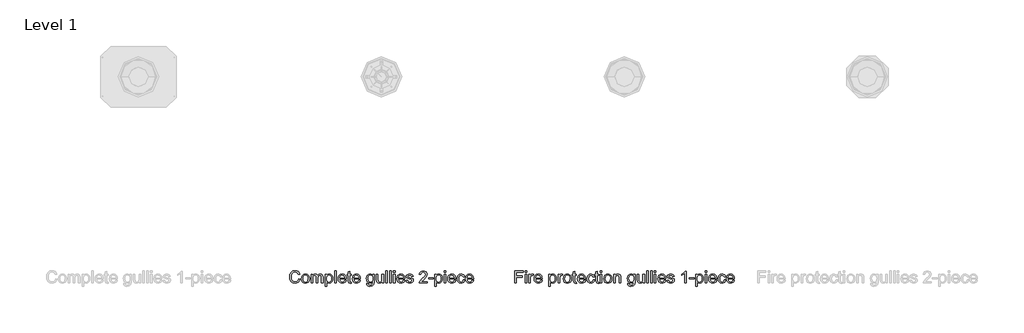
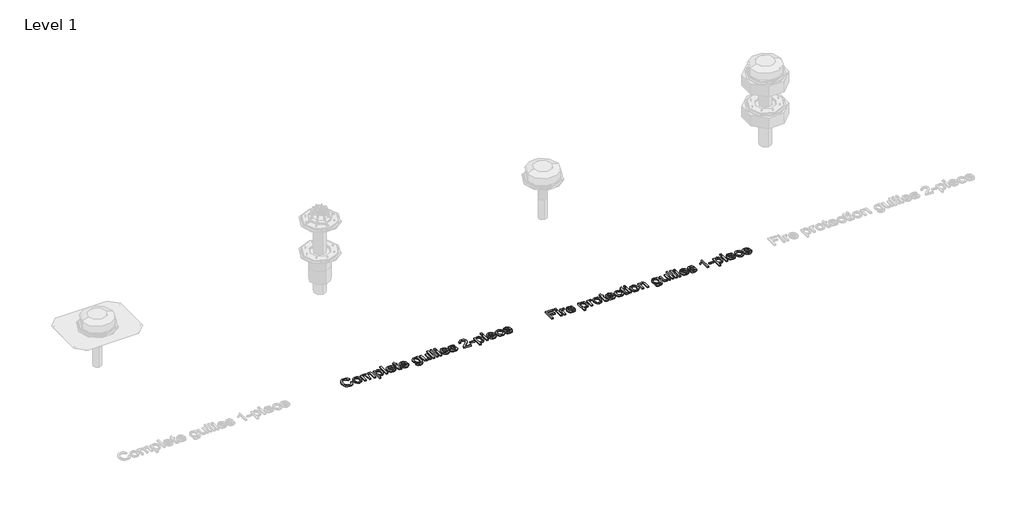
# One storey, part 2 of 4: 2 proxies.
"""IFC4 building model written with IfcOpenShell, lengths in millimetres."""

from ifc_helpers import new_model, si_unit, origin, origin_with_axes, place, context, project, spatial, polyline, outline, extrude, element, save

model = new_model("IFC4")

# Units and contexts
model_context = context("Model", 3, world=origin())
ifc_project = project(units=[si_unit("LENGTHUNIT", "METRE", prefix="MILLI")], contexts=[model_context])

# Site, building, storey
site = spatial("IfcSite", under=ifc_project)
building = spatial("IfcBuilding", under=site)
storey = spatial("IfcBuildingStorey", under=building, Name="Level 1", Elevation=0.0)

# Proxies
placement = place(None, origin())
element("IfcBuildingElementProxy", 1, Name="100mm ACO", ObjectType="100mm ACO", at=placement, inside=storey, context=model_context, shape_type="SweptSolid", body=[
    extrude(outline(polyline([(2830.5555556, -668.1712963), (2824.6419271, -682.9969618), (2815.5237269, -693.5040509), (2803.7362558, -699.7649016), (2789.8148148, -701.8518519), (2768.9091435, -697.9962384), (2754.5717593, -686.4293981), (2746.2818287, -669.4372106), (2743.5185185, -649.3055556), (2746.7628762, -627.9188368), (2756.4959491, -611.7332176), (2771.3288484, -601.5444155), (2789.8726852, -598.1481481), (2803.1864873, -599.9602141), (2814.4241898, -605.396412), (2823.0938947, -614.3265336), (2828.7037037, -626.6203704), (2815.7407407, -629.6296296), (2805.8883102, -614.3663194), (2789.380787, -609.2592593), (2775.1591435, -611.968316), (2764.84375, -620.0954861), (2758.5720486, -632.7799479), (2756.4814815, -649.1608796), (2758.6950231, -667.5238715), (2765.3356481, -680.4832176), (2775.5353009, -688.17636), (2788.4259259, -690.7407407), (2798.9945023, -689.1239873), (2807.3784722, -684.2737269), (2813.5778356, -676.1754919), (2817.5925926, -664.8148148), (2830.5555556, -668.1712963)])), origin_with_axes(), (0.0, 0.0, 1.0), 10.0),
    extrude(outline(polyline([(2874.9710648, -625.9259259), (2888.1474248, -628.3203125), (2898.8570602, -635.5034722), (2905.964265, -647.0992477), (2908.3333333, -662.7314815), (2905.7689525, -681.0040509), (2898.0758102, -692.9976852), (2887.1708623, -699.6383102), (2874.9710648, -701.8518519), (2862.3806424, -699.5768229), (2851.5769676, -692.7517361), (2844.1442419, -680.9859664), (2841.6666667, -663.8888889), (2844.0610532, -647.1715856), (2851.244213, -635.3298611), (2861.9646991, -628.2769097), (2874.9710648, -625.9259259)]), holes=[polyline([(2874.9710648, -692.5925926), (2883.7782118, -690.5852141), (2890.1765046, -684.5630787), (2895.3703704, -663.4259259), (2893.9019097, -651.1429398), (2889.4965278, -642.3032407), (2882.9282407, -636.9646991), (2874.9710648, -635.1851852), (2866.8583623, -636.9900174), (2860.3443287, -642.4045139), (2856.0583044, -651.3925058), (2854.6296296, -663.9178241), (2856.0836227, -676.3997396), (2860.4456019, -685.3732639), (2866.9849537, -690.7877604), (2874.9710648, -692.5925926)])]), origin_with_axes(), (0.0, 0.0, 1.0), 10.0),
    extrude(outline(polyline([(3019.4444444, -700.0), (3006.4814815, -700.0), (3006.4814815, -653.2986111), (3005.8304398, -644.4878472), (3002.4450231, -638.0063657), (2993.9236111, -635.1851852), (2981.9155093, -640.3356481), (2978.1177662, -647.0920139), (2976.8518519, -657.0601852), (2976.8518519, -700.0), (2963.8888889, -700.0), (2963.8888889, -651.9097222), (2960.7060185, -638.744213), (2951.6782407, -635.1851852), (2939.1493056, -640.7552083), (2935.4817708, -648.7521701), (2934.2592593, -661.6030093), (2934.2592593, -700.0), (2921.2962963, -700.0), (2921.2962963, -627.7777778), (2932.4074074, -627.7777778), (2932.4074074, -637.6736111), (2941.7896412, -628.8628472), (2954.3402778, -625.9259259), (2967.5202546, -629.0943287), (2975.0, -638.6284722), (2984.5196759, -629.1015625), (2997.1064815, -625.9259259), (3006.8793403, -627.4450231), (3013.8599537, -632.0023148), (3018.0483218, -639.5978009), (3019.4444444, -650.2314815), (3019.4444444, -700.0)])), origin_with_axes(), (0.0, 0.0, 1.0), 10.0),
    extrude(outline(polyline([(3051.0561343, -636.4872685), (3059.5124421, -628.5662616), (3071.1805556, -625.9259259), (3083.5069444, -628.515625), (3092.9398148, -636.2847222), (3098.9293981, -648.2132523), (3100.9259259, -663.28125), (3098.6689815, -679.1702836), (3091.8981481, -691.4207176), (3081.8431713, -699.2440683), (3069.7337963, -701.8518519), (3059.3605324, -699.7251157), (3051.2731481, -693.3449074), (3050.9259259, -727.7777778), (3037.962963, -727.7777778), (3037.962963, -627.7777778), (3050.9259259, -627.7777778), (3051.0561343, -636.4872685)]), holes=[polyline([(3068.3159722, -692.5925926), (3076.0886863, -690.766059), (3082.3929398, -685.2864583), (3086.5704572, -676.1899595), (3087.962963, -663.5127315), (3086.6210937, -651.4359086), (3082.5954861, -642.5202546), (3076.4793113, -637.0189525), (3068.8657407, -635.1851852), (3060.9845197, -637.2287326), (3054.6440972, -643.359375), (3050.4665799, -652.7452257), (3049.0740741, -664.5543981), (3050.4087095, -676.66739), (3054.4126157, -685.4600694), (3060.5577257, -690.8094618), (3068.3159722, -692.5925926)])]), origin_with_axes(), (0.0, 0.0, 1.0), 10.0),
    extrude(outline(polyline([(3128.7037037, -700.0), (3115.7407407, -700.0), (3115.7407407, -600.0), (3128.7037037, -600.0), (3128.7037037, -700.0)])), origin_with_axes(), (0.0, 0.0, 1.0), 10.0),
    extrude(outline(polyline([(3210.1851852, -666.6666667), (3156.4814815, -666.6666667), (3158.5539641, -677.7922454), (3163.2667824, -685.9375), (3170.0484664, -690.9288194), (3178.3275463, -692.5925926), (3190.0028935, -688.9033565), (3197.2222222, -677.7777778), (3210.1851852, -679.2824074), (3205.8087384, -688.9033565), (3198.8715278, -696.0069444), (3189.6267361, -700.390625), (3178.3275463, -701.8518519), (3163.7405961, -699.3453414), (3152.734375, -691.8258102), (3145.8224826, -679.9660012), (3143.5185185, -664.4386574), (3145.739294, -648.900463), (3152.4016204, -636.6030093), (3163.1004051, -628.5951968), (3177.4305556, -625.9259259), (3192.650463, -629.3836806), (3205.078125, -641.1603009), (3208.9084201, -651.6963252), (3210.1851852, -666.6666667)]), holes=[polyline([(3197.2222222, -657.4074074), (3195.1388889, -647.2511574), (3190.3935185, -640.3935185), (3177.1122685, -635.1851852), (3169.2563657, -636.7332176), (3162.9340278, -641.3773148), (3156.4814815, -657.4074074), (3197.2222222, -657.4074074)])]), origin_with_axes(), (0.0, 0.0, 1.0), 10.0),
    extrude(outline(polyline([(3252.7777778, -701.0127315), (3243.6921296, -701.8518519), (3232.103588, -698.9728009), (3227.662037, -691.6666667), (3226.8518519, -679.3402778), (3226.8518519, -637.037037), (3217.5925926, -637.037037), (3217.5925926, -627.7777778), (3226.8518519, -627.7777778), (3226.8518519, -609.4328704), (3239.8148148, -601.8518519), (3239.8148148, -627.7777778), (3250.9259259, -627.7777778), (3250.9259259, -637.037037), (3239.8148148, -637.037037), (3239.8148148, -681.9444444), (3240.8564815, -690.162037), (3246.1516204, -692.5925926), (3251.1863426, -692.5925926), (3252.7777778, -701.0127315)])), origin_with_axes(), (0.0, 0.0, 1.0), 10.0),
    extrude(outline(polyline([(3326.8518519, -666.6666667), (3273.1481481, -666.6666667), (3275.2206308, -677.7922454), (3279.9334491, -685.9375), (3286.7151331, -690.9288194), (3294.994213, -692.5925926), (3306.6695602, -688.9033565), (3313.8888889, -677.7777778), (3326.8518519, -679.2824074), (3322.4754051, -688.9033565), (3315.5381944, -696.0069444), (3306.2934028, -700.390625), (3294.994213, -701.8518519), (3280.4072627, -699.3453414), (3269.4010417, -691.8258102), (3262.4891493, -679.9660012), (3260.1851852, -664.4386574), (3262.4059606, -648.900463), (3269.068287, -636.6030093), (3279.7670718, -628.5951968), (3294.0972222, -625.9259259), (3309.3171296, -629.3836806), (3321.7447917, -641.1603009), (3325.5750868, -651.6963252), (3326.8518519, -666.6666667)]), holes=[polyline([(3313.8888889, -657.4074074), (3311.8055556, -647.2511574), (3307.0601852, -640.3935185), (3293.7789352, -635.1851852), (3285.9230324, -636.7332176), (3279.6006944, -641.3773148), (3273.1481481, -657.4074074), (3313.8888889, -657.4074074)])]), origin_with_axes(), (0.0, 0.0, 1.0), 10.0),
    extrude(outline(polyline([(3439.8148148, -689.3518519), (3436.7621528, -711.9936343), (3425.8969907, -723.6255787), (3407.2337963, -727.7777778), (3396.0177951, -726.3708044), (3386.8489583, -722.1498843), (3380.7400174, -714.7243924), (3378.7037037, -703.7037037), (3391.6666667, -705.7581019), (3396.2384259, -715.3211806), (3407.4363426, -718.5185185), (3420.7465278, -714.8292824), (3425.9114583, -705.8449074), (3426.8518519, -691.2326389), (3418.0772569, -697.8081597), (3407.2627315, -700.0), (3394.8712384, -697.3885995), (3385.1851852, -689.5543981), (3378.9351852, -677.7416088), (3376.8518519, -663.1944444), (3378.833912, -648.5532407), (3384.7800926, -636.5740741), (3394.2274306, -628.587963), (3406.712963, -625.9259259), (3417.7879051, -628.3058449), (3426.5914352, -635.4456019), (3426.8518519, -627.7777778), (3439.8148148, -627.7777778), (3439.8148148, -689.3518519)]), holes=[polyline([(3409.2013889, -690.7407407), (3416.4134838, -689.134838), (3422.7719907, -684.3171296), (3427.2207755, -675.7233796), (3428.7037037, -662.7893519), (3427.2894965, -651.0018808), (3423.046875, -642.3177083), (3416.7209201, -636.968316), (3409.056713, -635.1851852), (3401.3346354, -637.0117187), (3395.1822917, -642.4913194), (3391.156684, -651.1465567), (3389.8148148, -662.5), (3391.2217882, -675.2170139), (3395.4427083, -683.9699074), (3401.6963252, -689.0480324), (3409.2013889, -690.7407407)])]), origin_with_axes(), (0.0, 0.0, 1.0), 10.0),
    extrude(outline(polyline([(3517.5925926, -700.0), (3506.4814815, -700.0), (3506.4814815, -689.4965278), (3496.2384259, -698.7630208), (3483.275463, -701.8518519), (3469.1550926, -698.3362269), (3460.5034722, -688.6574074), (3458.3333333, -672.65625), (3458.3333333, -627.7777778), (3471.2962963, -627.7777778), (3471.2962963, -668.75), (3472.193287, -682.8414352), (3476.880787, -689.84375), (3485.9085648, -692.5925926), (3498.6545139, -687.6736111), (3503.1358507, -680.1215278), (3504.6296296, -667.3032407), (3504.6296296, -627.7777778), (3517.5925926, -627.7777778), (3517.5925926, -700.0)])), origin_with_axes(), (0.0, 0.0, 1.0), 10.0),
    extrude(outline(polyline([(3549.0740741, -700.0), (3536.1111111, -700.0), (3536.1111111, -600.0), (3549.0740741, -600.0), (3549.0740741, -700.0)])), origin_with_axes(), (0.0, 0.0, 1.0), 10.0),
    extrude(outline(polyline([(3580.5555556, -700.0), (3567.5925926, -700.0), (3567.5925926, -600.0), (3580.5555556, -600.0), (3580.5555556, -700.0)])), origin_with_axes(), (0.0, 0.0, 1.0), 10.0),
    extrude(outline(polyline([(3612.037037, -612.962963), (3599.0740741, -612.962963), (3599.0740741, -600.0), (3612.037037, -600.0), (3612.037037, -612.962963)])), origin_with_axes(), (0.0, 0.0, 1.0), 10.0),
    extrude(outline(polyline([(3612.037037, -700.0), (3599.0740741, -700.0), (3599.0740741, -627.7777778), (3612.037037, -627.7777778), (3612.037037, -700.0)])), origin_with_axes(), (0.0, 0.0, 1.0), 10.0),
    extrude(outline(polyline([(3693.5185185, -666.6666667), (3639.8148148, -666.6666667), (3641.8872975, -677.7922454), (3646.6001157, -685.9375), (3653.3817998, -690.9288194), (3661.6608796, -692.5925926), (3673.3362269, -688.9033565), (3680.5555556, -677.7777778), (3693.5185185, -679.2824074), (3689.1420718, -688.9033565), (3682.2048611, -696.0069444), (3672.9600694, -700.390625), (3661.6608796, -701.8518519), (3647.0739294, -699.3453414), (3636.0677083, -691.8258102), (3629.155816, -679.9660012), (3626.8518519, -664.4386574), (3629.0726273, -648.900463), (3635.7349537, -636.6030093), (3646.4337384, -628.5951968), (3660.7638889, -625.9259259), (3675.9837963, -629.3836806), (3688.4114583, -641.1603009), (3692.2417535, -651.6963252), (3693.5185185, -666.6666667)]), holes=[polyline([(3680.5555556, -657.4074074), (3678.4722222, -647.2511574), (3673.7268519, -640.3935185), (3660.4456019, -635.1851852), (3652.5896991, -636.7332176), (3646.2673611, -641.3773148), (3639.8148148, -657.4074074), (3680.5555556, -657.4074074)])]), origin_with_axes(), (0.0, 0.0, 1.0), 10.0),
    extrude(outline(polyline([(3749.0740741, -648.1481481), (3744.2853009, -638.4259259), (3733.2175926, -635.1851852), (3721.9039352, -637.962963), (3717.5925926, -646.0358796), (3720.4427083, -653.1828704), (3733.8831019, -657.0601852), (3751.6059028, -661.2268519), (3760.6481481, -667.5491898), (3763.8888889, -678.8773148), (3761.8778935, -687.8074363), (3755.8449074, -695.2112269), (3746.448206, -700.1916956), (3734.3460648, -701.8518519), (3721.8713831, -700.4557292), (3712.4565972, -696.2673611), (3706.0944734, -689.2939815), (3702.7777778, -679.5428241), (3715.7407407, -677.7777778), (3721.3396991, -688.9033565), (3734.3460648, -692.5925926), (3746.6435185, -688.7586806), (3750.9259259, -679.4270833), (3749.0017361, -673.4519676), (3744.1984954, -670.0810185), (3730.6134259, -667.1875), (3709.6788194, -659.375), (3704.6296296, -646.7881944), (3706.499566, -638.5018808), (3712.109375, -631.8142361), (3720.880353, -627.3980035), (3732.2337963, -625.9259259), (3744.1659433, -627.2135417), (3753.1105324, -631.0763889), (3759.0675637, -637.5072338), (3762.037037, -646.4988426), (3749.0740741, -648.1481481)])), origin_with_axes(), (0.0, 0.0, 1.0), 10.0),
    extrude(outline(polyline([(3876.8518519, -700.0), (3810.1851852, -700.0), (3816.1458333, -684.4039352), (3838.1655093, -662.7893519), (3855.931713, -645.4571759), (3861.8995949, -636.4293981), (3863.8888889, -627.34375), (3858.4635417, -614.380787), (3844.7627315, -609.2592593), (3830.7291667, -614.3663194), (3826.4612269, -620.7356771), (3825.0, -629.6296296), (3812.037037, -628.2407407), (3815.1765046, -616.1385995), (3822.2222222, -607.2627315), (3832.4363426, -601.8156829), (3845.0810185, -600.0), (3858.4382234, -602.0869502), (3868.4751157, -608.3478009), (3874.7576678, -617.5600405), (3876.8518519, -628.5011574), (3875.1012731, -638.4042245), (3869.849537, -648.4375), (3842.4189815, -675.9548611), (3826.8518519, -690.7407407), (3876.8518519, -690.7407407), (3876.8518519, -700.0)])), origin_with_axes(), (0.0, 0.0, 1.0), 10.0),
    extrude(outline(polyline([(3926.8518519, -666.6666667), (3887.962963, -666.6666667), (3887.962963, -657.4074074), (3926.8518519, -657.4074074), (3926.8518519, -666.6666667)])), origin_with_axes(), (0.0, 0.0, 1.0), 10.0),
    extrude(outline(polyline([(3952.9079861, -636.4872685), (3961.364294, -628.5662616), (3973.0324074, -625.9259259), (3985.3587963, -628.515625), (3994.7916667, -636.2847222), (4000.78125, -648.2132523), (4002.7777778, -663.28125), (4000.5208333, -679.1702836), (3993.75, -691.4207176), (3983.6950231, -699.2440683), (3971.5856481, -701.8518519), (3961.2123843, -699.7251157), (3953.125, -693.3449074), (3952.7777778, -727.7777778), (3939.8148148, -727.7777778), (3939.8148148, -627.7777778), (3952.7777778, -627.7777778), (3952.9079861, -636.4872685)]), holes=[polyline([(3970.1678241, -692.5925926), (3977.9405382, -690.766059), (3984.2447917, -685.2864583), (3988.422309, -676.1899595), (3989.8148148, -663.5127315), (3988.4729456, -651.4359086), (3984.447338, -642.5202546), (3978.3311632, -637.0189525), (3970.7175926, -635.1851852), (3962.8363715, -637.2287326), (3956.4959491, -643.359375), (3952.3184317, -652.7452257), (3950.9259259, -664.5543981), (3952.2605613, -676.66739), (3956.2644676, -685.4600694), (3962.4095775, -690.8094618), (3970.1678241, -692.5925926)])]), origin_with_axes(), (0.0, 0.0, 1.0), 10.0),
    extrude(outline(polyline([(4030.5555556, -612.962963), (4017.5925926, -612.962963), (4017.5925926, -600.0), (4030.5555556, -600.0), (4030.5555556, -612.962963)])), origin_with_axes(), (0.0, 0.0, 1.0), 10.0),
    extrude(outline(polyline([(4030.5555556, -700.0), (4017.5925926, -700.0), (4017.5925926, -627.7777778), (4030.5555556, -627.7777778), (4030.5555556, -700.0)])), origin_with_axes(), (0.0, 0.0, 1.0), 10.0),
    extrude(outline(polyline([(4112.037037, -666.6666667), (4058.3333333, -666.6666667), (4060.405816, -677.7922454), (4065.1186343, -685.9375), (4071.9003183, -690.9288194), (4080.1793981, -692.5925926), (4091.8547454, -688.9033565), (4099.0740741, -677.7777778), (4112.037037, -679.2824074), (4107.6605903, -688.9033565), (4100.7233796, -696.0069444), (4091.478588, -700.390625), (4080.1793981, -701.8518519), (4065.5924479, -699.3453414), (4054.5862269, -691.8258102), (4047.6743345, -679.9660012), (4045.3703704, -664.4386574), (4047.5911458, -648.900463), (4054.2534722, -636.6030093), (4064.9522569, -628.5951968), (4079.2824074, -625.9259259), (4094.5023148, -629.3836806), (4106.9299769, -641.1603009), (4110.760272, -651.6963252), (4112.037037, -666.6666667)]), holes=[polyline([(4099.0740741, -657.4074074), (4096.9907407, -647.2511574), (4092.2453704, -640.3935185), (4078.9641204, -635.1851852), (4071.1082176, -636.7332176), (4064.7858796, -641.3773148), (4058.3333333, -657.4074074), (4099.0740741, -657.4074074)])]), origin_with_axes(), (0.0, 0.0, 1.0), 10.0),
    extrude(outline(polyline([(4187.962963, -675.5497685), (4183.9337384, -687.3553241), (4176.7650463, -695.5150463), (4167.4406829, -700.2676505), (4156.9444444, -701.8518519), (4142.6287616, -699.2621528), (4131.9733796, -691.4930556), (4125.354456, -679.4487847), (4123.1481481, -664.0335648), (4128.1828704, -641.3483796), (4140.7841435, -629.3836806), (4156.6840278, -625.9259259), (4176.1429398, -631.5827546), (4182.6786748, -638.566985), (4186.1111111, -648.2060185), (4173.1481481, -650.0), (4167.2453704, -638.9033565), (4156.8287037, -635.1851852), (4147.8732639, -637.0695891), (4141.3773148, -642.7228009), (4137.427662, -651.7541956), (4136.1111111, -663.7731481), (4137.4312789, -676.0018808), (4141.3917824, -685.083912), (4147.8407118, -690.7154225), (4156.6261574, -692.5925926), (4169.2274306, -687.962963), (4175.0, -674.0740741), (4187.962963, -675.5497685)])), origin_with_axes(), (0.0, 0.0, 1.0), 10.0),
    extrude(outline(polyline([(4258.3333333, -666.6666667), (4204.6296296, -666.6666667), (4206.7021123, -677.7922454), (4211.4149306, -685.9375), (4218.1966146, -690.9288194), (4226.4756944, -692.5925926), (4238.1510417, -688.9033565), (4245.3703704, -677.7777778), (4258.3333333, -679.2824074), (4253.9568866, -688.9033565), (4247.0196759, -696.0069444), (4237.7748843, -700.390625), (4226.4756944, -701.8518519), (4211.8887442, -699.3453414), (4200.8825231, -691.8258102), (4193.9706308, -679.9660012), (4191.6666667, -664.4386574), (4193.8874421, -648.900463), (4200.5497685, -636.6030093), (4211.2485532, -628.5951968), (4225.5787037, -625.9259259), (4240.7986111, -629.3836806), (4253.2262731, -641.1603009), (4257.0565683, -651.6963252), (4258.3333333, -666.6666667)]), holes=[polyline([(4245.3703704, -657.4074074), (4243.287037, -647.2511574), (4238.5416667, -640.3935185), (4225.2604167, -635.1851852), (4217.4045139, -636.7332176), (4211.0821759, -641.3773148), (4204.6296296, -657.4074074), (4245.3703704, -657.4074074)])]), origin_with_axes(), (0.0, 0.0, 1.0), 10.0),
])
element("IfcBuildingElementProxy", 2, Name="100mm ACO", ObjectType="100mm ACO", at=placement, inside=storey, context=model_context, shape_type="SweptSolid", body=[
    extrude(outline(polyline([(4665.7407407, -611.1111111), (4612.037037, -611.1111111), (4612.037037, -642.5925926), (4658.3333333, -642.5925926), (4658.3333333, -653.7037037), (4612.037037, -653.7037037), (4612.037037, -700.0), (4599.0740741, -700.0), (4599.0740741, -600.0), (4665.7407407, -600.0), (4665.7407407, -611.1111111)])), origin_with_axes(), (0.0, 0.0, 1.0), 10.0),
    extrude(outline(polyline([(4695.3703704, -700.0), (4682.4074074, -700.0), (4682.4074074, -627.7777778), (4695.3703704, -627.7777778), (4695.3703704, -700.0)])), origin_with_axes(), (0.0, 0.0, 1.0), 10.0),
    extrude(outline(polyline([(4695.3703704, -612.962963), (4682.4074074, -612.962963), (4682.4074074, -600.0), (4695.3703704, -600.0), (4695.3703704, -612.962963)])), origin_with_axes(), (0.0, 0.0, 1.0), 10.0),
    extrude(outline(polyline([(4752.7777778, -628.7615741), (4748.7268519, -637.037037), (4740.2199074, -635.1851852), (4734.4256366, -636.8127894), (4730.2372685, -641.6956019), (4726.8518519, -659.9247685), (4726.8518519, -700.0), (4713.8888889, -700.0), (4713.8888889, -627.7777778), (4725.0, -627.7777778), (4725.0, -638.4837963), (4731.9299769, -629.0653935), (4740.3645833, -625.9259259), (4752.7777778, -628.7615741)])), origin_with_axes(), (0.0, 0.0, 1.0), 10.0),
    extrude(outline(polyline([(4823.1481481, -666.6666667), (4769.4444444, -666.6666667), (4771.5169271, -677.7922454), (4776.2297454, -685.9375), (4783.0114294, -690.9288194), (4791.2905093, -692.5925926), (4802.9658565, -688.9033565), (4810.1851852, -677.7777778), (4823.1481481, -679.2824074), (4818.7717014, -688.9033565), (4811.8344907, -696.0069444), (4802.5896991, -700.390625), (4791.2905093, -701.8518519), (4776.703559, -699.3453414), (4765.697338, -691.8258102), (4758.7854456, -679.9660012), (4756.4814815, -664.4386574), (4758.7022569, -648.900463), (4765.3645833, -636.6030093), (4776.0633681, -628.5951968), (4790.3935185, -625.9259259), (4805.6134259, -629.3836806), (4818.041088, -641.1603009), (4821.8713831, -651.6963252), (4823.1481481, -666.6666667)]), holes=[polyline([(4810.1851852, -657.4074074), (4808.1018519, -647.2511574), (4803.3564815, -640.3935185), (4790.0752315, -635.1851852), (4782.2193287, -636.7332176), (4775.8969907, -641.3773148), (4769.4444444, -657.4074074), (4810.1851852, -657.4074074)])]), origin_with_axes(), (0.0, 0.0, 1.0), 10.0),
    extrude(outline(polyline([(4889.9450231, -636.4872685), (4898.401331, -628.5662616), (4910.0694444, -625.9259259), (4922.3958333, -628.515625), (4931.8287037, -636.2847222), (4937.818287, -648.2132523), (4939.8148148, -663.28125), (4937.5578704, -679.1702836), (4930.787037, -691.4207176), (4920.7320602, -699.2440683), (4908.6226852, -701.8518519), (4898.2494213, -699.7251157), (4890.162037, -693.3449074), (4889.8148148, -727.7777778), (4876.8518519, -727.7777778), (4876.8518519, -627.7777778), (4889.8148148, -627.7777778), (4889.9450231, -636.4872685)]), holes=[polyline([(4907.2048611, -692.5925926), (4914.9775752, -690.766059), (4921.2818287, -685.2864583), (4925.4593461, -676.1899595), (4926.8518519, -663.5127315), (4925.5099826, -651.4359086), (4921.484375, -642.5202546), (4915.3682002, -637.0189525), (4907.7546296, -635.1851852), (4899.8734086, -637.2287326), (4893.5329861, -643.359375), (4889.3554687, -652.7452257), (4887.962963, -664.5543981), (4889.2975984, -676.66739), (4893.3015046, -685.4600694), (4899.4466146, -690.8094618), (4907.2048611, -692.5925926)])]), origin_with_axes(), (0.0, 0.0, 1.0), 10.0),
    extrude(outline(polyline([(4993.5185185, -628.7615741), (4989.4675926, -637.037037), (4980.9606481, -635.1851852), (4975.1663773, -636.8127894), (4970.9780093, -641.6956019), (4967.5925926, -659.9247685), (4967.5925926, -700.0), (4954.6296296, -700.0), (4954.6296296, -627.7777778), (4965.7407407, -627.7777778), (4965.7407407, -638.4837963), (4972.6707176, -629.0653935), (4981.1053241, -625.9259259), (4993.5185185, -628.7615741)])), origin_with_axes(), (0.0, 0.0, 1.0), 10.0),
    extrude(outline(polyline([(5030.5266204, -625.9259259), (5043.7029803, -628.3203125), (5054.4126157, -635.5034722), (5061.5198206, -647.0992477), (5063.8888889, -662.7314815), (5061.3245081, -681.0040509), (5053.6313657, -692.9976852), (5042.7264178, -699.6383102), (5030.5266204, -701.8518519), (5017.9361979, -699.5768229), (5007.1325231, -692.7517361), (4999.6997975, -680.9859664), (4997.2222222, -663.8888889), (4999.6166088, -647.1715856), (5006.7997685, -635.3298611), (5017.5202546, -628.2769097), (5030.5266204, -625.9259259)]), holes=[polyline([(5030.5266204, -692.5925926), (5039.3337674, -690.5852141), (5045.7320602, -684.5630787), (5050.9259259, -663.4259259), (5049.4574653, -651.1429398), (5045.0520833, -642.3032407), (5038.4837963, -636.9646991), (5030.5266204, -635.1851852), (5022.4139178, -636.9900174), (5015.8998843, -642.4045139), (5011.61386, -651.3925058), (5010.1851852, -663.9178241), (5011.6391782, -676.3997396), (5016.0011574, -685.3732639), (5022.5405093, -690.7877604), (5030.5266204, -692.5925926)])]), origin_with_axes(), (0.0, 0.0, 1.0), 10.0),
    extrude(outline(polyline([(5106.4814815, -701.0127315), (5097.3958333, -701.8518519), (5085.8072917, -698.9728009), (5081.3657407, -691.6666667), (5080.5555556, -679.3402778), (5080.5555556, -637.037037), (5071.2962963, -637.037037), (5071.2962963, -627.7777778), (5080.5555556, -627.7777778), (5080.5555556, -609.4328704), (5093.5185185, -601.8518519), (5093.5185185, -627.7777778), (5104.6296296, -627.7777778), (5104.6296296, -637.037037), (5093.5185185, -637.037037), (5093.5185185, -681.9444444), (5094.5601852, -690.162037), (5099.8553241, -692.5925926), (5104.8900463, -692.5925926), (5106.4814815, -701.0127315)])), origin_with_axes(), (0.0, 0.0, 1.0), 10.0),
    extrude(outline(polyline([(5180.5555556, -666.6666667), (5126.8518519, -666.6666667), (5128.9243345, -677.7922454), (5133.6371528, -685.9375), (5140.4188368, -690.9288194), (5148.6979167, -692.5925926), (5160.3732639, -688.9033565), (5167.5925926, -677.7777778), (5180.5555556, -679.2824074), (5176.1791088, -688.9033565), (5169.2418981, -696.0069444), (5159.9971065, -700.390625), (5148.6979167, -701.8518519), (5134.1109664, -699.3453414), (5123.1047454, -691.8258102), (5116.192853, -679.9660012), (5113.8888889, -664.4386574), (5116.1096644, -648.900463), (5122.7719907, -636.6030093), (5133.4707755, -628.5951968), (5147.8009259, -625.9259259), (5163.0208333, -629.3836806), (5175.4484954, -641.1603009), (5179.2787905, -651.6963252), (5180.5555556, -666.6666667)]), holes=[polyline([(5167.5925926, -657.4074074), (5165.5092593, -647.2511574), (5160.7638889, -640.3935185), (5147.4826389, -635.1851852), (5139.6267361, -636.7332176), (5133.3043981, -641.3773148), (5126.8518519, -657.4074074), (5167.5925926, -657.4074074)])]), origin_with_axes(), (0.0, 0.0, 1.0), 10.0),
    extrude(outline(polyline([(5256.4814815, -675.5497685), (5252.4522569, -687.3553241), (5245.2835648, -695.5150463), (5235.9592014, -700.2676505), (5225.462963, -701.8518519), (5211.1472801, -699.2621528), (5200.4918981, -691.4930556), (5193.8729745, -679.4487847), (5191.6666667, -664.0335648), (5196.7013889, -641.3483796), (5209.302662, -629.3836806), (5225.2025463, -625.9259259), (5244.6614583, -631.5827546), (5251.1971933, -638.566985), (5254.6296296, -648.2060185), (5241.6666667, -650.0), (5235.7638889, -638.9033565), (5225.3472222, -635.1851852), (5216.3917824, -637.0695891), (5209.8958333, -642.7228009), (5205.9461806, -651.7541956), (5204.6296296, -663.7731481), (5205.9497975, -676.0018808), (5209.9103009, -685.083912), (5216.3592303, -690.7154225), (5225.1446759, -692.5925926), (5237.7459491, -687.962963), (5243.5185185, -674.0740741), (5256.4814815, -675.5497685)])), origin_with_axes(), (0.0, 0.0, 1.0), 10.0),
    extrude(outline(polyline([(5291.6666667, -701.0127315), (5282.5810185, -701.8518519), (5270.9924769, -698.9728009), (5266.5509259, -691.6666667), (5265.7407407, -679.3402778), (5265.7407407, -637.037037), (5256.4814815, -637.037037), (5256.4814815, -627.7777778), (5265.7407407, -627.7777778), (5265.7407407, -609.4328704), (5278.7037037, -601.8518519), (5278.7037037, -627.7777778), (5289.8148148, -627.7777778), (5289.8148148, -637.037037), (5278.7037037, -637.037037), (5278.7037037, -681.9444444), (5279.7453704, -690.162037), (5285.0405093, -692.5925926), (5290.0752315, -692.5925926), (5291.6666667, -701.0127315)])), origin_with_axes(), (0.0, 0.0, 1.0), 10.0),
    extrude(outline(polyline([(5315.7407407, -612.962963), (5302.7777778, -612.962963), (5302.7777778, -600.0), (5315.7407407, -600.0), (5315.7407407, -612.962963)])), origin_with_axes(), (0.0, 0.0, 1.0), 10.0),
    extrude(outline(polyline([(5315.7407407, -700.0), (5302.7777778, -700.0), (5302.7777778, -627.7777778), (5315.7407407, -627.7777778), (5315.7407407, -700.0)])), origin_with_axes(), (0.0, 0.0, 1.0), 10.0),
    extrude(outline(polyline([(5363.8599537, -625.9259259), (5377.0363137, -628.3203125), (5387.7459491, -635.5034722), (5394.8531539, -647.0992477), (5397.2222222, -662.7314815), (5394.6578414, -681.0040509), (5386.9646991, -692.9976852), (5376.0597512, -699.6383102), (5363.8599537, -701.8518519), (5351.2695312, -699.5768229), (5340.4658565, -692.7517361), (5333.0331308, -680.9859664), (5330.5555556, -663.8888889), (5332.9499421, -647.1715856), (5340.1331019, -635.3298611), (5350.853588, -628.2769097), (5363.8599537, -625.9259259)]), holes=[polyline([(5363.8599537, -692.5925926), (5372.6671007, -690.5852141), (5379.0653935, -684.5630787), (5384.2592593, -663.4259259), (5382.7907986, -651.1429398), (5378.3854167, -642.3032407), (5371.8171296, -636.9646991), (5363.8599537, -635.1851852), (5355.7472512, -636.9900174), (5349.2332176, -642.4045139), (5344.9471933, -651.3925058), (5343.5185185, -663.9178241), (5344.9725116, -676.3997396), (5349.3344907, -685.3732639), (5355.8738426, -690.7877604), (5363.8599537, -692.5925926)])]), origin_with_axes(), (0.0, 0.0, 1.0), 10.0),
    extrude(outline(polyline([(5471.2962963, -700.0), (5458.3333333, -700.0), (5458.3333333, -655.0347222), (5454.4704861, -639.4386574), (5443.7210648, -635.1851852), (5433.6950231, -637.9050926), (5426.9820602, -645.5729167), (5425.0, -659.5775463), (5425.0, -700.0), (5412.037037, -700.0), (5412.037037, -627.7777778), (5423.1481481, -627.7777778), (5423.1481481, -637.818287), (5433.0439815, -628.8917824), (5446.2962963, -625.9259259), (5457.6678241, -627.9803241), (5466.4641204, -634.1290509), (5470.4716435, -642.8674769), (5471.2962963, -655.4108796), (5471.2962963, -700.0)])), origin_with_axes(), (0.0, 0.0, 1.0), 10.0),
    extrude(outline(polyline([(5587.962963, -689.3518519), (5584.9103009, -711.9936343), (5574.0451389, -723.6255787), (5555.3819444, -727.7777778), (5544.1659433, -726.3708044), (5534.9971065, -722.1498843), (5528.8881655, -714.7243924), (5526.8518519, -703.7037037), (5539.8148148, -705.7581019), (5544.3865741, -715.3211806), (5555.5844907, -718.5185185), (5568.8946759, -714.8292824), (5574.0596065, -705.8449074), (5575.0, -691.2326389), (5566.2254051, -697.8081597), (5555.4108796, -700.0), (5543.0193866, -697.3885995), (5533.3333333, -689.5543981), (5527.0833333, -677.7416088), (5525.0, -663.1944444), (5526.9820602, -648.5532407), (5532.9282407, -636.5740741), (5542.3755787, -628.587963), (5554.8611111, -625.9259259), (5565.9360532, -628.3058449), (5574.7395833, -635.4456019), (5575.0, -627.7777778), (5587.962963, -627.7777778), (5587.962963, -689.3518519)]), holes=[polyline([(5557.349537, -690.7407407), (5564.5616319, -689.134838), (5570.9201389, -684.3171296), (5575.3689236, -675.7233796), (5576.8518519, -662.7893519), (5575.4376447, -651.0018808), (5571.1950231, -642.3177083), (5564.8690683, -636.968316), (5557.2048611, -635.1851852), (5549.4827836, -637.0117187), (5543.3304398, -642.4913194), (5539.3048322, -651.1465567), (5537.962963, -662.5), (5539.3699363, -675.2170139), (5543.5908565, -683.9699074), (5549.8444734, -689.0480324), (5557.349537, -690.7407407)])]), origin_with_axes(), (0.0, 0.0, 1.0), 10.0),
    extrude(outline(polyline([(5665.7407407, -700.0), (5654.6296296, -700.0), (5654.6296296, -689.4965278), (5644.3865741, -698.7630208), (5631.4236111, -701.8518519), (5617.3032407, -698.3362269), (5608.6516204, -688.6574074), (5606.4814815, -672.65625), (5606.4814815, -627.7777778), (5619.4444444, -627.7777778), (5619.4444444, -668.75), (5620.3414352, -682.8414352), (5625.0289352, -689.84375), (5634.056713, -692.5925926), (5646.802662, -687.6736111), (5651.2839988, -680.1215278), (5652.7777778, -667.3032407), (5652.7777778, -627.7777778), (5665.7407407, -627.7777778), (5665.7407407, -700.0)])), origin_with_axes(), (0.0, 0.0, 1.0), 10.0),
    extrude(outline(polyline([(5697.2222222, -700.0), (5684.2592593, -700.0), (5684.2592593, -600.0), (5697.2222222, -600.0), (5697.2222222, -700.0)])), origin_with_axes(), (0.0, 0.0, 1.0), 10.0),
    extrude(outline(polyline([(5728.7037037, -700.0), (5715.7407407, -700.0), (5715.7407407, -600.0), (5728.7037037, -600.0), (5728.7037037, -700.0)])), origin_with_axes(), (0.0, 0.0, 1.0), 10.0),
    extrude(outline(polyline([(5760.1851852, -612.962963), (5747.2222222, -612.962963), (5747.2222222, -600.0), (5760.1851852, -600.0), (5760.1851852, -612.962963)])), origin_with_axes(), (0.0, 0.0, 1.0), 10.0),
    extrude(outline(polyline([(5760.1851852, -700.0), (5747.2222222, -700.0), (5747.2222222, -627.7777778), (5760.1851852, -627.7777778), (5760.1851852, -700.0)])), origin_with_axes(), (0.0, 0.0, 1.0), 10.0),
    extrude(outline(polyline([(5841.6666667, -666.6666667), (5787.962963, -666.6666667), (5790.0354456, -677.7922454), (5794.7482639, -685.9375), (5801.5299479, -690.9288194), (5809.8090278, -692.5925926), (5821.484375, -688.9033565), (5828.7037037, -677.7777778), (5841.6666667, -679.2824074), (5837.2902199, -688.9033565), (5830.3530093, -696.0069444), (5821.1082176, -700.390625), (5809.8090278, -701.8518519), (5795.2220775, -699.3453414), (5784.2158565, -691.8258102), (5777.3039641, -679.9660012), (5775.0, -664.4386574), (5777.2207755, -648.900463), (5783.8831019, -636.6030093), (5794.5818866, -628.5951968), (5808.912037, -625.9259259), (5824.1319444, -629.3836806), (5836.5596065, -641.1603009), (5840.3899016, -651.6963252), (5841.6666667, -666.6666667)]), holes=[polyline([(5828.7037037, -657.4074074), (5826.6203704, -647.2511574), (5821.875, -640.3935185), (5808.59375, -635.1851852), (5800.7378472, -636.7332176), (5794.4155093, -641.3773148), (5787.962963, -657.4074074), (5828.7037037, -657.4074074)])]), origin_with_axes(), (0.0, 0.0, 1.0), 10.0),
    extrude(outline(polyline([(5897.2222222, -648.1481481), (5892.4334491, -638.4259259), (5881.3657407, -635.1851852), (5870.0520833, -637.962963), (5865.7407407, -646.0358796), (5868.5908565, -653.1828704), (5882.03125, -657.0601852), (5899.7540509, -661.2268519), (5908.7962963, -667.5491898), (5912.037037, -678.8773148), (5910.0260417, -687.8074363), (5903.9930556, -695.2112269), (5894.5963542, -700.1916956), (5882.494213, -701.8518519), (5870.0195312, -700.4557292), (5860.6047454, -696.2673611), (5854.2426215, -689.2939815), (5850.9259259, -679.5428241), (5863.8888889, -677.7777778), (5869.4878472, -688.9033565), (5882.494213, -692.5925926), (5894.7916667, -688.7586806), (5899.0740741, -679.4270833), (5897.1498843, -673.4519676), (5892.3466435, -670.0810185), (5878.7615741, -667.1875), (5857.8269676, -659.375), (5852.7777778, -646.7881944), (5854.6477141, -638.5018808), (5860.2575231, -631.8142361), (5869.0285012, -627.3980035), (5880.3819444, -625.9259259), (5892.3140914, -627.2135417), (5901.2586806, -631.0763889), (5907.2157118, -637.5072338), (5910.1851852, -646.4988426), (5897.2222222, -648.1481481)])), origin_with_axes(), (0.0, 0.0, 1.0), 10.0),
    extrude(outline(polyline([(6008.3333333, -700.0), (5995.3703704, -700.0), (5995.3703704, -622.2222222), (5971.2962963, -637.037037), (5971.2962963, -627.7777778), (5989.5688657, -616.0590278), (6000.9259259, -601.8518519), (6008.3333333, -601.8518519), (6008.3333333, -700.0)])), origin_with_axes(), (0.0, 0.0, 1.0), 10.0),
    extrude(outline(polyline([(6075.0, -666.6666667), (6036.1111111, -666.6666667), (6036.1111111, -657.4074074), (6075.0, -657.4074074), (6075.0, -666.6666667)])), origin_with_axes(), (0.0, 0.0, 1.0), 10.0),
    extrude(outline(polyline([(6101.0561343, -636.4872685), (6109.5124421, -628.5662616), (6121.1805556, -625.9259259), (6133.5069444, -628.515625), (6142.9398148, -636.2847222), (6148.9293981, -648.2132523), (6150.9259259, -663.28125), (6148.6689815, -679.1702836), (6141.8981481, -691.4207176), (6131.8431713, -699.2440683), (6119.7337963, -701.8518519), (6109.3605324, -699.7251157), (6101.2731481, -693.3449074), (6100.9259259, -727.7777778), (6087.962963, -727.7777778), (6087.962963, -627.7777778), (6100.9259259, -627.7777778), (6101.0561343, -636.4872685)]), holes=[polyline([(6118.3159722, -692.5925926), (6126.0886863, -690.766059), (6132.3929398, -685.2864583), (6136.5704572, -676.1899595), (6137.962963, -663.5127315), (6136.6210937, -651.4359086), (6132.5954861, -642.5202546), (6126.4793113, -637.0189525), (6118.8657407, -635.1851852), (6110.9845197, -637.2287326), (6104.6440972, -643.359375), (6100.4665799, -652.7452257), (6099.0740741, -664.5543981), (6100.4087095, -676.66739), (6104.4126157, -685.4600694), (6110.5577257, -690.8094618), (6118.3159722, -692.5925926)])]), origin_with_axes(), (0.0, 0.0, 1.0), 10.0),
    extrude(outline(polyline([(6178.7037037, -612.962963), (6165.7407407, -612.962963), (6165.7407407, -600.0), (6178.7037037, -600.0), (6178.7037037, -612.962963)])), origin_with_axes(), (0.0, 0.0, 1.0), 10.0),
    extrude(outline(polyline([(6178.7037037, -700.0), (6165.7407407, -700.0), (6165.7407407, -627.7777778), (6178.7037037, -627.7777778), (6178.7037037, -700.0)])), origin_with_axes(), (0.0, 0.0, 1.0), 10.0),
    extrude(outline(polyline([(6260.1851852, -666.6666667), (6206.4814815, -666.6666667), (6208.5539641, -677.7922454), (6213.2667824, -685.9375), (6220.0484664, -690.9288194), (6228.3275463, -692.5925926), (6240.0028935, -688.9033565), (6247.2222222, -677.7777778), (6260.1851852, -679.2824074), (6255.8087384, -688.9033565), (6248.8715278, -696.0069444), (6239.6267361, -700.390625), (6228.3275463, -701.8518519), (6213.7405961, -699.3453414), (6202.734375, -691.8258102), (6195.8224826, -679.9660012), (6193.5185185, -664.4386574), (6195.739294, -648.900463), (6202.4016204, -636.6030093), (6213.1004051, -628.5951968), (6227.4305556, -625.9259259), (6242.650463, -629.3836806), (6255.078125, -641.1603009), (6258.9084201, -651.6963252), (6260.1851852, -666.6666667)]), holes=[polyline([(6247.2222222, -657.4074074), (6245.1388889, -647.2511574), (6240.3935185, -640.3935185), (6227.1122685, -635.1851852), (6219.2563657, -636.7332176), (6212.9340278, -641.3773148), (6206.4814815, -657.4074074), (6247.2222222, -657.4074074)])]), origin_with_axes(), (0.0, 0.0, 1.0), 10.0),
    extrude(outline(polyline([(6336.1111111, -675.5497685), (6332.0818866, -687.3553241), (6324.9131944, -695.5150463), (6315.588831, -700.2676505), (6305.0925926, -701.8518519), (6290.7769097, -699.2621528), (6280.1215278, -691.4930556), (6273.5026042, -679.4487847), (6271.2962963, -664.0335648), (6276.3310185, -641.3483796), (6288.9322917, -629.3836806), (6304.8321759, -625.9259259), (6324.291088, -631.5827546), (6330.8268229, -638.566985), (6334.2592593, -648.2060185), (6321.2962963, -650.0), (6315.3935185, -638.9033565), (6304.9768519, -635.1851852), (6296.021412, -637.0695891), (6289.525463, -642.7228009), (6285.5758102, -651.7541956), (6284.2592593, -663.7731481), (6285.5794271, -676.0018808), (6289.5399306, -685.083912), (6295.98886, -690.7154225), (6304.7743056, -692.5925926), (6317.3755787, -687.962963), (6323.1481481, -674.0740741), (6336.1111111, -675.5497685)])), origin_with_axes(), (0.0, 0.0, 1.0), 10.0),
    extrude(outline(polyline([(6406.4814815, -666.6666667), (6352.7777778, -666.6666667), (6354.8502604, -677.7922454), (6359.5630787, -685.9375), (6366.3447627, -690.9288194), (6374.6238426, -692.5925926), (6386.2991898, -688.9033565), (6393.5185185, -677.7777778), (6406.4814815, -679.2824074), (6402.1050347, -688.9033565), (6395.1678241, -696.0069444), (6385.9230324, -700.390625), (6374.6238426, -701.8518519), (6360.0368924, -699.3453414), (6349.0306713, -691.8258102), (6342.1187789, -679.9660012), (6339.8148148, -664.4386574), (6342.0355903, -648.900463), (6348.6979167, -636.6030093), (6359.3967014, -628.5951968), (6373.7268519, -625.9259259), (6388.9467593, -629.3836806), (6401.3744213, -641.1603009), (6405.2047164, -651.6963252), (6406.4814815, -666.6666667)]), holes=[polyline([(6393.5185185, -657.4074074), (6391.4351852, -647.2511574), (6386.6898148, -640.3935185), (6373.4085648, -635.1851852), (6365.552662, -636.7332176), (6359.2303241, -641.3773148), (6352.7777778, -657.4074074), (6393.5185185, -657.4074074)])]), origin_with_axes(), (0.0, 0.0, 1.0), 10.0),
])

save(model, "model.ifc")
